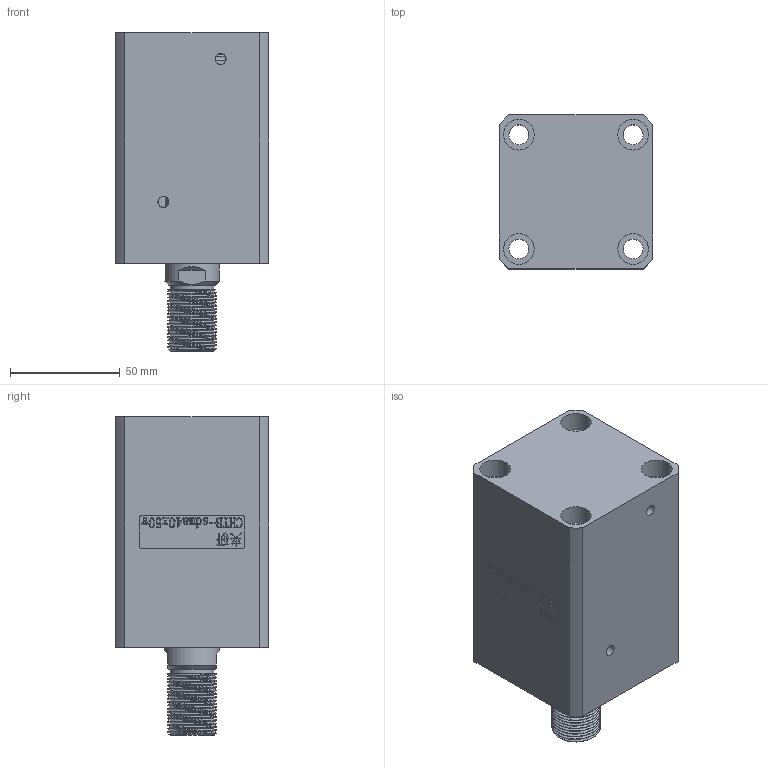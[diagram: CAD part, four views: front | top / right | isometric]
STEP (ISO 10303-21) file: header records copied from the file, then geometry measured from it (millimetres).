
FILE_DESCRIPTION(/* description */ (''),/* implementation_level */ '2;1');
FILE_NAME(/* name */ 'CHTB-sdma40x50w.stp',/* time_stamp */ '2022-04-29T17:44:52+08:00',/* author */ (''),/* organization */ (''),/* preprocessor_version */ 'ST-DEVELOPER v16.7',/* originating_system */ 'SIEMENS PLM Software NX 12.0',/* authorisation */ '');
FILE_SCHEMA (('AUTOMOTIVE_DESIGN { 1 0 10303 214 3 1 1 1 }'));
Length unit declared in the file: millimetre
Products named in the file (1): CHTB-sdma40x50w
Bounding box: 70 x 70 x 145 mm (x, y, z)
Volume: 448337.3 mm3; surface area: 92049.3 mm2
Topology: 3 solids, 4 shells, 500 faces, 1413 edges, 969 vertices
Faces by surface type: plane 323, extrusion 111, cylinder 42, torus 11, bspline 8, cone 5
Full cylindrical faces by diameter (mm): 4 x2, 4.2 x2, 5 x3, 9 x6, 14 x8, 20 x1, 25 x2, 29 x1, 34 x2, 40 x4, 45 x1
Entity records: 24933 total; most frequent: CARTESIAN_POINT 10049, ORIENTED_EDGE 2688, DIRECTION 1969, EDGE_CURVE 1344, VECTOR 1015, VERTEX_POINT 951, LINE 904, EDGE_LOOP 615
